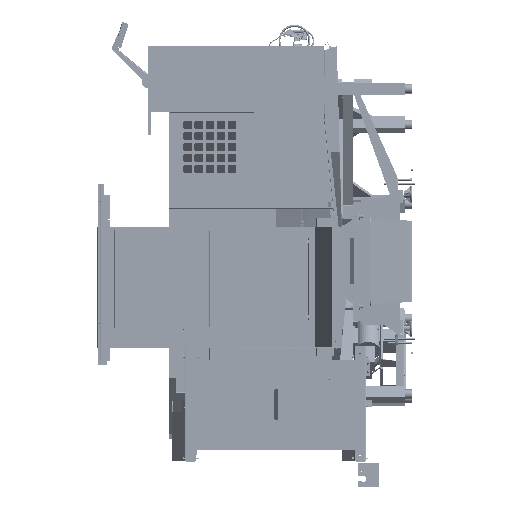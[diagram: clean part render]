
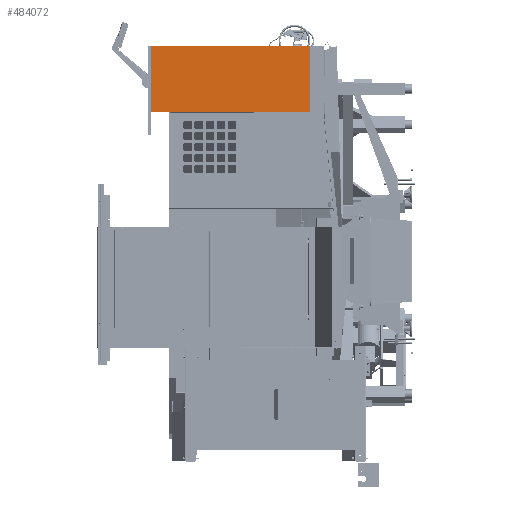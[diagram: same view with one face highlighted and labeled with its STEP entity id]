
A CAD part, left-side view. The second image highlights one B-rep face of the part: STEP entity #484072.
In plain terms, the highlighted planar face has unit normal (-1, 0, 0).
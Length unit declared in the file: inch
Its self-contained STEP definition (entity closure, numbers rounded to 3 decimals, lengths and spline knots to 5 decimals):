
#3655 = CARTESIAN_POINT ( 'NONE',  ( 29.40099, -5.26476, 69.4677 ) ) ;
#10508 = CARTESIAN_POINT ( 'NONE',  ( 29.40099, -5.26476, 88.644 ) ) ;
#13413 = CARTESIAN_POINT ( 'NONE',  ( 29.40099, 41.73524, 88.7427 ) ) ;
#37100 = VERTEX_POINT ( 'NONE', #639754 ) ;
#42537 = EDGE_CURVE ( 'NONE', #665978, #521858, #181928, .T. ) ;
#44098 = VERTEX_POINT ( 'NONE', #54373 ) ;
#45453 = DIRECTION ( 'NONE',  ( 0., 0., -1. ) ) ;
#45941 = CARTESIAN_POINT ( 'NONE',  ( 29.40099, 41.66054, 88.7427 ) ) ;
#48346 = CARTESIAN_POINT ( 'NONE',  ( 29.40099, 41.73524, 69.5424 ) ) ;
#54373 = CARTESIAN_POINT ( 'NONE',  ( 29.40099, 41.73524, 88.668 ) ) ;
#64091 = ORIENTED_EDGE ( 'NONE', *, *, #170494, .F. ) ;
#67582 = ORIENTED_EDGE ( 'NONE', *, *, #146483, .F. ) ;
#76638 = VECTOR ( 'NONE', #351687, 39.37008 ) ;
#79558 = CARTESIAN_POINT ( 'NONE',  ( 29.40099, -5.26476, 88.7427 ) ) ;
#80231 = CARTESIAN_POINT ( 'NONE',  ( 29.40099, -5.26476, 88.7427 ) ) ;
#81370 = VECTOR ( 'NONE', #223248, 39.37008 ) ;
#109058 = VECTOR ( 'NONE', #229553, 39.37008 ) ;
#113145 = LINE ( 'NONE', #3655, #76638 ) ;
#121368 = CARTESIAN_POINT ( 'NONE',  ( 29.40099, -5.19006, 88.7427 ) ) ;
#130493 = VECTOR ( 'NONE', #333229, 39.37008 ) ;
#133042 = CARTESIAN_POINT ( 'NONE',  ( 29.40099, -5.26476, 88.644 ) ) ;
#135639 = EDGE_CURVE ( 'NONE', #269341, #201513, #197438, .T. ) ;
#136010 = VERTEX_POINT ( 'NONE', #492230 ) ;
#142039 = LINE ( 'NONE', #79558, #541938 ) ;
#142653 = DIRECTION ( 'NONE',  ( 0., 0., -1. ) ) ;
#146483 = EDGE_CURVE ( 'NONE', #588175, #707666, #403203, .T. ) ;
#170494 = EDGE_CURVE ( 'NONE', #172526, #37100, #455220, .T. ) ;
#172526 = VERTEX_POINT ( 'NONE', #337672 ) ;
#181928 = LINE ( 'NONE', #420514, #735219 ) ;
#185562 = EDGE_CURVE ( 'NONE', #201513, #136010, #715482, .T. ) ;
#197438 = LINE ( 'NONE', #388864, #678740 ) ;
#201513 = VERTEX_POINT ( 'NONE', #604220 ) ;
#208600 = ORIENTED_EDGE ( 'NONE', *, *, #527126, .F. ) ;
#215195 = LINE ( 'NONE', #13413, #327297 ) ;
#223248 = DIRECTION ( 'NONE',  ( 0., 0., -1. ) ) ;
#224867 = ORIENTED_EDGE ( 'NONE', *, *, #502570, .F. ) ;
#228410 = ORIENTED_EDGE ( 'NONE', *, *, #673896, .F. ) ;
#229553 = DIRECTION ( 'NONE',  ( 0., -1., 0. ) ) ;
#239903 = FACE_OUTER_BOUND ( 'NONE', #746424, .T. ) ;
#248411 = CARTESIAN_POINT ( 'NONE',  ( 29.40099, -5.18406, 88.7427 ) ) ;
#255647 = ORIENTED_EDGE ( 'NONE', *, *, #185562, .F. ) ;
#269341 = VERTEX_POINT ( 'NONE', #471369 ) ;
#272625 = CARTESIAN_POINT ( 'NONE',  ( 29.40099, 41.73524, 88.644 ) ) ;
#274302 = LINE ( 'NONE', #520683, #81370 ) ;
#283409 = DIRECTION ( 'NONE',  ( 0., -1., 0. ) ) ;
#291229 = EDGE_CURVE ( 'NONE', #37100, #588175, #396615, .T. ) ;
#292445 = EDGE_CURVE ( 'NONE', #447040, #454944, #391934, .T. ) ;
#294666 = DIRECTION ( 'NONE',  ( 0., 0., 1. ) ) ;
#297403 = DIRECTION ( 'NONE',  ( 0., 0., 1. ) ) ;
#300830 = CARTESIAN_POINT ( 'NONE',  ( 29.40099, -5.26476, 69.5424 ) ) ;
#322923 = VERTEX_POINT ( 'NONE', #80231 ) ;
#327297 = VECTOR ( 'NONE', #728964, 39.37008 ) ;
#329341 = DIRECTION ( 'NONE',  ( 1., 0., 0. ) ) ;
#332498 = ORIENTED_EDGE ( 'NONE', *, *, #292445, .F. ) ;
#333229 = DIRECTION ( 'NONE',  ( 0., -1., 0. ) ) ;
#337672 = CARTESIAN_POINT ( 'NONE',  ( 29.40099, 41.73524, 69.4677 ) ) ;
#348594 = EDGE_CURVE ( 'NONE', #669946, #702164, #714457, .T. ) ;
#351687 = DIRECTION ( 'NONE',  ( 0., 1., 0. ) ) ;
#368322 = CARTESIAN_POINT ( 'NONE',  ( 29.40099, 41.73524, 88.7427 ) ) ;
#371210 = VECTOR ( 'NONE', #297403, 39.37008 ) ;
#375326 = EDGE_CURVE ( 'NONE', #707666, #44098, #581588, .T. ) ;
#388864 = CARTESIAN_POINT ( 'NONE',  ( 29.40099, -5.26476, 69.5664 ) ) ;
#391934 = LINE ( 'NONE', #630610, #130493 ) ;
#392236 = VECTOR ( 'NONE', #608890, 39.37008 ) ;
#396615 = LINE ( 'NONE', #646783, #754811 ) ;
#401184 = ORIENTED_EDGE ( 'NONE', *, *, #643384, .F. ) ;
#403203 = LINE ( 'NONE', #410908, #371210 ) ;
#404609 = LINE ( 'NONE', #514429, #695130 ) ;
#406150 = DIRECTION ( 'NONE',  ( 0., -1., 0. ) ) ;
#410908 = CARTESIAN_POINT ( 'NONE',  ( 29.40099, 41.73524, 88.644 ) ) ;
#420514 = CARTESIAN_POINT ( 'NONE',  ( 29.40099, -5.26476, 88.644 ) ) ;
#428834 = LINE ( 'NONE', #10508, #392236 ) ;
#434690 = ORIENTED_EDGE ( 'NONE', *, *, #526837, .F. ) ;
#447040 = VERTEX_POINT ( 'NONE', #248411 ) ;
#454944 = VERTEX_POINT ( 'NONE', #121368 ) ;
#455220 = LINE ( 'NONE', #48346, #773733 ) ;
#467004 = CARTESIAN_POINT ( 'NONE',  ( 29.40099, -5.26476, 88.668 ) ) ;
#468803 = LINE ( 'NONE', #707274, #745198 ) ;
#471369 = CARTESIAN_POINT ( 'NONE',  ( 29.40099, -5.26476, 69.5664 ) ) ;
#479702 = EDGE_CURVE ( 'NONE', #642037, #669946, #142039, .T. ) ;
#484072 = ADVANCED_FACE ( 'NONE', ( #239903 ), #654563, .F. ) ;
#488154 = CARTESIAN_POINT ( 'NONE',  ( 29.40099, 41.66054, 88.7427 ) ) ;
#492230 = CARTESIAN_POINT ( 'NONE',  ( 29.40099, -5.26476, 69.4677 ) ) ;
#499035 = ORIENTED_EDGE ( 'NONE', *, *, #42537, .F. ) ;
#502570 = EDGE_CURVE ( 'NONE', #136010, #172526, #113145, .T. ) ;
#514429 = CARTESIAN_POINT ( 'NONE',  ( 29.40099, -5.26476, 88.7427 ) ) ;
#515164 = DIRECTION ( 'NONE',  ( 0., 0., 1. ) ) ;
#516514 = CARTESIAN_POINT ( 'NONE',  ( 29.40099, 41.73524, 69.5664 ) ) ;
#520683 = CARTESIAN_POINT ( 'NONE',  ( 29.40099, -5.26476, 88.7427 ) ) ;
#521858 = VERTEX_POINT ( 'NONE', #133042 ) ;
#526837 = EDGE_CURVE ( 'NONE', #521858, #269341, #428834, .T. ) ;
#527126 = EDGE_CURVE ( 'NONE', #44098, #642037, #215195, .T. ) ;
#535500 = ORIENTED_EDGE ( 'NONE', *, *, #375326, .F. ) ;
#541486 = DIRECTION ( 'NONE',  ( 0., -1., 0. ) ) ;
#541938 = VECTOR ( 'NONE', #541486, 39.37008 ) ;
#556930 = ORIENTED_EDGE ( 'NONE', *, *, #135639, .F. ) ;
#567721 = VECTOR ( 'NONE', #653012, 39.37008 ) ;
#581588 = LINE ( 'NONE', #272625, #746678 ) ;
#585119 = CARTESIAN_POINT ( 'NONE',  ( 29.40099, 41.73524, 88.644 ) ) ;
#588175 = VERTEX_POINT ( 'NONE', #516514 ) ;
#599986 = ORIENTED_EDGE ( 'NONE', *, *, #680785, .F. ) ;
#604220 = CARTESIAN_POINT ( 'NONE',  ( 29.40099, -5.26476, 69.5424 ) ) ;
#608890 = DIRECTION ( 'NONE',  ( 0., 0., -1. ) ) ;
#630610 = CARTESIAN_POINT ( 'NONE',  ( 29.40099, -5.19006, 88.7427 ) ) ;
#635122 = DIRECTION ( 'NONE',  ( 0., 0., 1. ) ) ;
#639754 = CARTESIAN_POINT ( 'NONE',  ( 29.40099, 41.73524, 69.5424 ) ) ;
#642037 = VERTEX_POINT ( 'NONE', #368322 ) ;
#643384 = EDGE_CURVE ( 'NONE', #322923, #665978, #274302, .T. ) ;
#646783 = CARTESIAN_POINT ( 'NONE',  ( 29.40099, 41.73524, 69.5664 ) ) ;
#653012 = DIRECTION ( 'NONE',  ( 0., 0., -1. ) ) ;
#654563 = PLANE ( 'NONE',  #752378 ) ;
#665978 = VERTEX_POINT ( 'NONE', #467004 ) ;
#669946 = VERTEX_POINT ( 'NONE', #488154 ) ;
#673896 = EDGE_CURVE ( 'NONE', #702164, #447040, #468803, .T. ) ;
#674944 = CARTESIAN_POINT ( 'NONE',  ( 29.40099, 41.65454, 88.7427 ) ) ;
#678740 = VECTOR ( 'NONE', #142653, 39.37008 ) ;
#680785 = EDGE_CURVE ( 'NONE', #454944, #322923, #404609, .T. ) ;
#692986 = ORIENTED_EDGE ( 'NONE', *, *, #291229, .F. ) ;
#695130 = VECTOR ( 'NONE', #283409, 39.37008 ) ;
#702164 = VERTEX_POINT ( 'NONE', #674944 ) ;
#707274 = CARTESIAN_POINT ( 'NONE',  ( 29.40099, -5.18406, 88.7427 ) ) ;
#707666 = VERTEX_POINT ( 'NONE', #585119 ) ;
#711621 = ORIENTED_EDGE ( 'NONE', *, *, #479702, .F. ) ;
#714457 = LINE ( 'NONE', #45941, #109058 ) ;
#715482 = LINE ( 'NONE', #300830, #567721 ) ;
#728964 = DIRECTION ( 'NONE',  ( 0., 0., 1. ) ) ;
#735219 = VECTOR ( 'NONE', #45453, 39.37008 ) ;
#736253 = DIRECTION ( 'NONE',  ( 0., 1., 0. ) ) ;
#743992 = ORIENTED_EDGE ( 'NONE', *, *, #348594, .F. ) ;
#744002 = CARTESIAN_POINT ( 'NONE',  ( 29.40099, 18.23524, 79.1052 ) ) ;
#745198 = VECTOR ( 'NONE', #406150, 39.37008 ) ;
#746424 = EDGE_LOOP ( 'NONE', ( #499035, #401184, #599986, #332498, #228410, #743992, #711621, #208600, #535500, #67582, #692986, #64091, #224867, #255647, #556930, #434690 ) ) ;
#746678 = VECTOR ( 'NONE', #515164, 39.37008 ) ;
#752378 = AXIS2_PLACEMENT_3D ( 'NONE', #744002, #329341, #736253 ) ;
#754811 = VECTOR ( 'NONE', #294666, 39.37008 ) ;
#773733 = VECTOR ( 'NONE', #635122, 39.37008 ) ;
